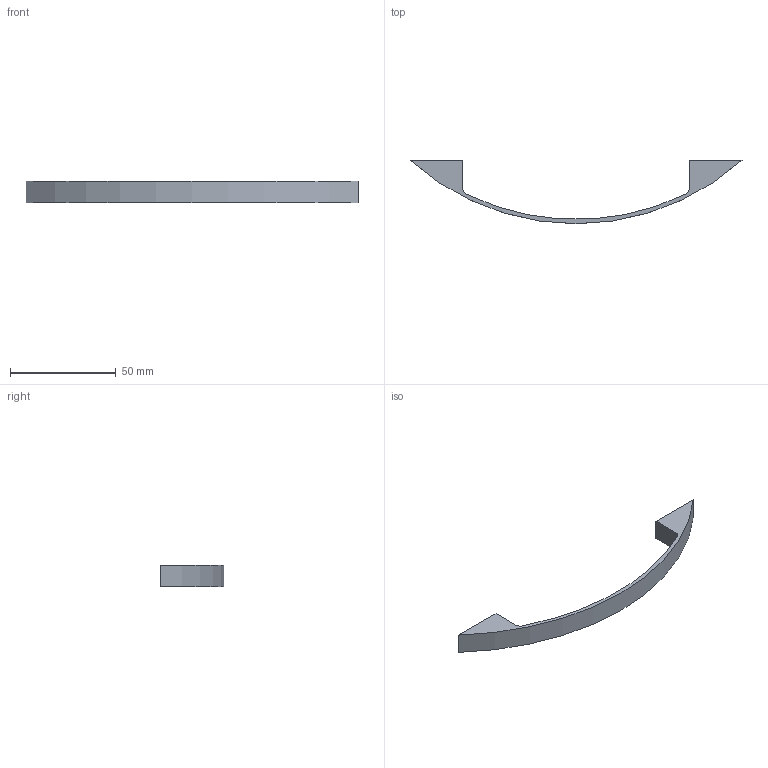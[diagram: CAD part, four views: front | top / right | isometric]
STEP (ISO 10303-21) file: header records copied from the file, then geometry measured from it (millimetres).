
FILE_DESCRIPTION( ( '' ), '1' );
FILE_NAME( 'D:/1.AUTOCAD EXPORT/Group 10/sheet_10_1/115295.stp', '2013-10-21T12:35:27', ( '' ), ( '' ), ' ', ' ', ' ' );
FILE_SCHEMA( ( 'automotive_design' ) );
Length unit declared in the file: millimetre
Products named in the file (1): 1
Bounding box: 157 x 30 x 10 mm (x, y, z)
Volume: 6631.6 mm3; surface area: 5192.1 mm2
Topology: 1 solids, 1 shells, 16 faces, 36 edges, 24 vertices
Faces by surface type: cylinder 8, plane 8
Entity records: 908 total; most frequent: DIRECTION 86, STYLED_ITEM 77, PRESENTATION_STYLE_ASSIGNMENT 77, CARTESIAN_POINT 77, COLOUR_RGB 77, ORIENTED_EDGE 72, EDGE_CURVE 36, CURVE_STYLE 36
